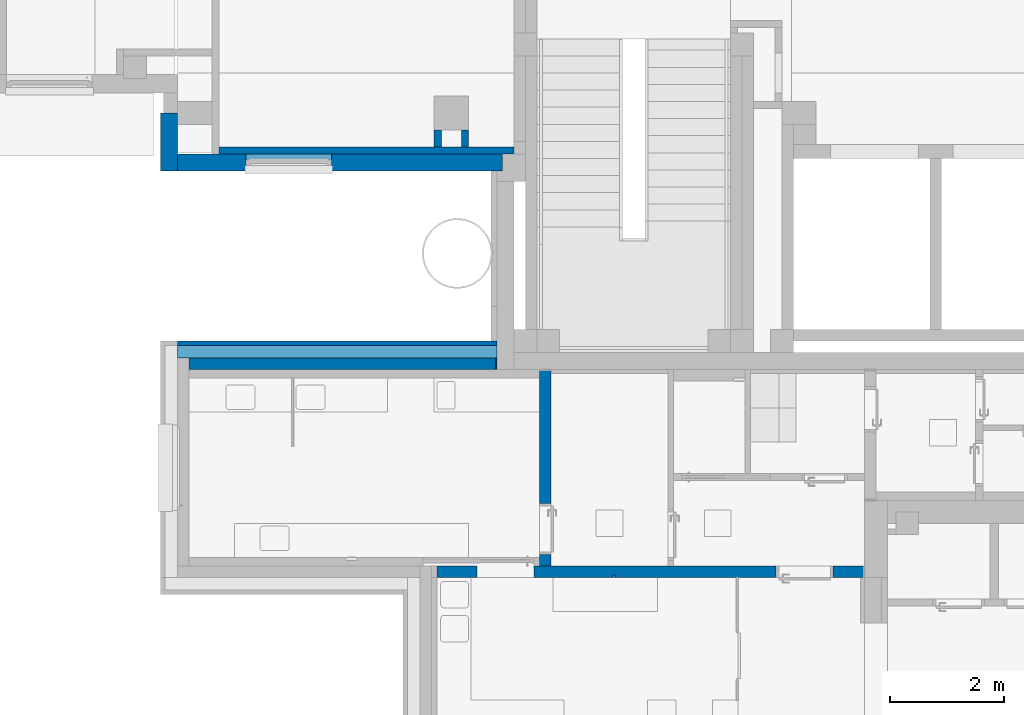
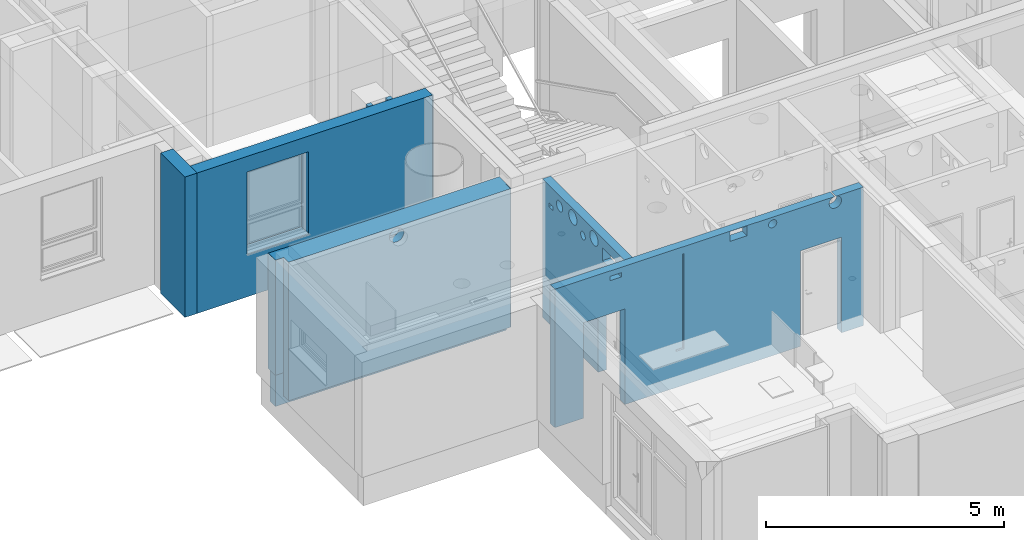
# One storey, part 27 of 140: 10 walls, 18 openings.
"""IFC4 building model written with IfcOpenShell, lengths in metres."""

import ifcopenshell
import ifcopenshell.guid

model = None  # the IFC model being written
_history = None  # IfcOwnerHistory: only IFC2X3 demands one
_inside = {}  # id of a spatial element -> (the spatial element, [elements in it])
_under = {}  # id of a project, library or spatial element -> (it, [spatial elements below it])
_declared = {}  # id of a project -> (the project, [libraries it declares])
_typed = {}  # id of a type object -> (the type object, [elements of that type])
_made_of = {}  # id of a material, layer set ... -> (it, [elements and type objects made of it])


def new_model(schema):
    """Start an empty IFC model of exactly this schema.

    Asked for "IFC4X3", IfcOpenShell would pick the latest addendum, in which some entities
    have other attributes; the version numbers below select the first issue.
    IFC2X3 requires an IfcOwnerHistory on every rooted entity: one is made here for all.
    """
    global model, _history
    if schema == "IFC4X3":
        model = ifcopenshell.file(schema_version=(4, 3, 0, 0))
    else:
        model = ifcopenshell.file(schema=schema)
    _inside.clear()
    _under.clear()
    _declared.clear()
    _typed.clear()
    _made_of.clear()
    _history = None
    if model.schema == "IFC2X3":
        org = make("IfcOrganization", Name="unknown")
        user = make(
            "IfcPersonAndOrganization",
            ThePerson=make("IfcPerson", FamilyName="unknown"),
            TheOrganization=org,
        )
        app = make(
            "IfcApplication",
            ApplicationDeveloper=org,
            Version="unknown",
            ApplicationFullName="unknown",
            ApplicationIdentifier="unknown",
        )
        _history = make(
            "IfcOwnerHistory",
            OwningUser=user,
            OwningApplication=app,
            ChangeAction="ADDED",
            CreationDate=0,
        )
    return model


def make(cls, **values):
    """One entity of the class cls with the attributes given. An attribute that is None is left unset."""
    return model.create_entity(
        cls, **{name: value for name, value in values.items() if value is not None}
    )


def entity(cls, *values):
    """Any entity or typed value of the class cls, its attributes in the order of the schema. None: left unset."""
    e = model.create_entity(cls)
    for i, value in enumerate(values):
        if value is not None:
            e[i] = value
    return e


def rooted(cls, **values):
    """An entity with a GlobalId (a new one), such as an element, a storey or a relation."""
    return make(cls, GlobalId=ifcopenshell.guid.new(), OwnerHistory=_history, **values)


def si_unit(unit_type, name, prefix=None):
    """IfcSIUnit, for example si_unit("LENGTHUNIT", "METRE", prefix="MILLI")."""
    return make("IfcSIUnit", UnitType=unit_type, Prefix=prefix, Name=name)


def converted_unit(unit_type, name, factor, base, dimensions=None, offset=None):
    """IfcConversionBasedUnit, such as the inch: factor (a typed value) times the base unit."""
    return make(
        "IfcConversionBasedUnit"
        if offset is None
        else "IfcConversionBasedUnitWithOffset",
        ConversionOffset=offset,
        Dimensions=None
        if dimensions is None
        else entity("IfcDimensionalExponents", *dimensions),
        UnitType=unit_type,
        Name=name,
        ConversionFactor=make(
            "IfcMeasureWithUnit", ValueComponent=factor, UnitComponent=base
        ),
    )


def derived_unit(unit_type, elements):
    """IfcDerivedUnit: a product of units, each with its exponent."""
    return make(
        "IfcDerivedUnit",
        Elements=[
            make("IfcDerivedUnitElement", Unit=unit, Exponent=power)
            for unit, power in elements
        ],
        UnitType=unit_type,
    )


def assignment(units):
    """IfcUnitAssignment: the units of a project."""
    return None if units is None else make("IfcUnitAssignment", Units=units)


def point(xyz):
    """IfcCartesianPoint."""
    return None if xyz is None else make("IfcCartesianPoint", Coordinates=xyz)


def direction(xyz):
    """IfcDirection."""
    return None if xyz is None else make("IfcDirection", DirectionRatios=xyz)


def frame(location, z_axis=None, x_axis=None):
    """IfcAxis2Placement3D, a coordinate frame: its origin and axes. An axis left out is left unset."""
    return make(
        "IfcAxis2Placement3D",
        Location=point(location),
        Axis=direction(z_axis),
        RefDirection=direction(x_axis),
    )


def frame_2d(location, x_axis=None):
    """IfcAxis2Placement2D, a coordinate frame in the plane: its origin and x axis."""
    return make(
        "IfcAxis2Placement2D", Location=point(location), RefDirection=direction(x_axis)
    )


def origin():
    """The frame at (0, 0, 0) with its axes left unset."""
    return frame((0.0, 0.0, 0.0))


def origin_with_axes():
    """The frame at (0, 0, 0) with the z axis (0, 0, 1) and the x axis (1, 0, 0) written out."""
    return frame((0.0, 0.0, 0.0), z_axis=(0.0, 0.0, 1.0), x_axis=(1.0, 0.0, 0.0))


def place(relative_to, where):
    """IfcLocalPlacement: puts the frame where relative to a parent placement (None: the world)."""
    return make(
        "IfcLocalPlacement", PlacementRelTo=relative_to, RelativePlacement=where
    )


def context(
    kind, dimensions, precision=None, world=None, true_north=None, identifier=None
):
    """IfcGeometricRepresentationContext, for example the 3D "Model" context."""
    return make(
        "IfcGeometricRepresentationContext",
        ContextIdentifier=identifier,
        ContextType=kind,
        CoordinateSpaceDimension=dimensions,
        Precision=precision,
        WorldCoordinateSystem=world,
        TrueNorth=true_north,
    )


def subcontext(parent, identifier, kind, view, scale=None):
    """IfcGeometricRepresentationSubContext, for example "Body" below "Model"."""
    return make(
        "IfcGeometricRepresentationSubContext",
        ContextIdentifier=identifier,
        ContextType=kind,
        ParentContext=parent,
        TargetScale=scale,
        TargetView=view,
    )


def project(units=None, contexts=None):
    """IfcProject with its units and contexts."""
    return rooted(
        "IfcProject",
        Name="project",
        RepresentationContexts=contexts,
        UnitsInContext=assignment(units),
    )


def spatial(cls, under=None, at=None, **own):
    """A site, building, storey or space (cls), placed at a placement, below another one or the project."""
    s = rooted(cls, ObjectPlacement=at, **own)
    if under is not None:
        _under.setdefault(under.id(), (under, []))[1].append(s)
    return s


def polyline(points):
    """IfcPolyline through the points."""
    return make("IfcPolyline", Points=[point(p) for p in points])


def profile(cls, at=None, kind="AREA", **sizes):
    """A parametric profile (cls). Its sizes go by their IFC names, for example OverallWidth=200.0."""
    return make(cls, ProfileType=kind, Position=at, **sizes)


def rectangle(**sizes):
    """IfcRectangleProfileDef."""
    return profile("IfcRectangleProfileDef", **sizes)


def outline(outer, holes=None, kind="AREA"):
    """IfcArbitraryClosedProfileDef: a profile drawn as a closed curve; with holes, ...WithVoids."""
    if holes is None:
        return make("IfcArbitraryClosedProfileDef", ProfileType=kind, OuterCurve=outer)
    return make(
        "IfcArbitraryProfileDefWithVoids",
        ProfileType=kind,
        OuterCurve=outer,
        InnerCurves=holes,
    )


def extrude(swept, where, along, depth):
    """IfcExtrudedAreaSolid: the profile swept, set in the frame where, extruded along a direction by depth."""
    return make(
        "IfcExtrudedAreaSolid",
        SweptArea=swept,
        Position=where,
        ExtrudedDirection=direction(along),
        Depth=depth,
    )


def clip(a, b, op="DIFFERENCE"):
    """IfcBooleanClippingResult: the solid a cut by the half space b."""
    return make(
        "IfcBooleanClippingResult", Operator=op, FirstOperand=a, SecondOperand=b
    )


def bounded_halfspace(plane, agree, where, boundary):
    """IfcPolygonalBoundedHalfSpace: a half space limited to a polygon's prism."""
    return make(
        "IfcPolygonalBoundedHalfSpace",
        BaseSurface=make("IfcPlane", Position=plane),
        AgreementFlag=agree,
        Position=where,
        PolygonalBoundary=boundary,
    )


def shape(context_of_items, identifier, shape_type, items):
    """IfcShapeRepresentation: the items that make up one representation, for example the "Body"."""
    return make(
        "IfcShapeRepresentation",
        ContextOfItems=context_of_items,
        RepresentationIdentifier=identifier,
        RepresentationType=shape_type,
        Items=items,
    )


def material(Name=None, Category=None):
    """IfcMaterial."""
    return make("IfcMaterial", Name=Name, Category=Category)


def layer(
    of_material, thickness, ventilated=None, Name=None, Category=None, Priority=None
):
    """IfcMaterialLayer: one layer of a wall or slab, of a material (None: an air gap)."""
    return make(
        "IfcMaterialLayer",
        Material=of_material,
        LayerThickness=thickness,
        IsVentilated=ventilated,
        Name=Name,
        Category=Category,
        Priority=Priority,
    )


def layer_set(layers, Name=None):
    """IfcMaterialLayerSet."""
    return make("IfcMaterialLayerSet", MaterialLayers=layers, LayerSetName=Name)


def layer_usage(for_layer_set, set_direction, sense, offset, extent=None):
    """IfcMaterialLayerSetUsage: how a layer set lies in its element."""
    return make(
        "IfcMaterialLayerSetUsage",
        ForLayerSet=for_layer_set,
        LayerSetDirection=set_direction,
        DirectionSense=sense,
        OffsetFromReferenceLine=offset,
        ReferenceExtent=extent,
    )


def made_of(thing, what):
    """Note that an element or type object is made of a material, layer set ...; save() writes the relation."""
    if what is not None:
        _made_of.setdefault(what.id(), (what, []))[1].append(thing)
    return thing


def element(
    cls,
    number,
    at=None,
    inside=None,
    cuts=None,
    type_object=None,
    material=None,
    context=None,
    identifier="Body",
    shape_type=None,
    held_by="IfcProductDefinitionShape",
    body=None,
    shapes=None,
    **own,
):
    """One element of the class cls, such as IfcWall. Its Tag is "e" and its number.

    at: its placement. inside: the storey or other place that contains it. cuts: it is an
    opening in that element (IfcRelVoidsElement). A single representation is given by context,
    identifier, shape_type and body (its items); several are given by shapes. held_by: the class
    of the entity that holds the representations. save() writes the other relations.
    """
    e = rooted(cls, Tag="e%d" % number, ObjectPlacement=at, **own)
    if body is not None:
        shapes = [shape(context, identifier, shape_type, body)]
    if shapes is not None:
        e.Representation = make(held_by, Representations=shapes)
    if inside is not None:
        _inside.setdefault(inside.id(), (inside, []))[1].append(e)
    if cuts is not None:
        rooted(
            "IfcRelVoidsElement", RelatingBuildingElement=cuts, RelatedOpeningElement=e
        )
    if type_object is not None:
        _typed.setdefault(type_object.id(), (type_object, []))[1].append(e)
    return made_of(e, material)


def aggregate(whole, parts):
    """IfcRelAggregates: a whole, such as a stair, and the parts it consists of."""
    return rooted("IfcRelAggregates", RelatingObject=whole, RelatedObjects=parts)


def save(model, path):
    """Write the relations noted so far, then the file.

    IfcRelAggregates (storeys below a building ...), IfcRelContainedInSpatialStructure (elements
    in a storey), IfcRelDefinesByType, IfcRelAssociatesMaterial and IfcRelDeclares: one each for
    every whole, place, type object, material and project.
    """
    for whole, parts in _under.values():
        aggregate(whole, parts)
    for where, things in _inside.values():
        rooted(
            "IfcRelContainedInSpatialStructure",
            RelatedElements=things,
            RelatingStructure=where,
        )
    for kind, things in _typed.values():
        rooted("IfcRelDefinesByType", RelatedObjects=things, RelatingType=kind)
    for what, things in _made_of.values():
        rooted("IfcRelAssociatesMaterial", RelatedObjects=things, RelatingMaterial=what)
    for by, libraries in _declared.values():
        rooted("IfcRelDeclares", RelatingContext=by, RelatedDefinitions=libraries)
    model.write(path)


model = new_model("IFC4")

# Units and contexts
model_context = context("Model", 3, precision=1e-05, world=origin())
body_context = subcontext(model_context, "Body", "Model", "MODEL_VIEW")
ifc_project = project(units=[si_unit("LENGTHUNIT", "METRE"), si_unit("AREAUNIT", "SQUARE_METRE"), si_unit("VOLUMEUNIT", "CUBIC_METRE"), si_unit("MASSUNIT", "GRAM", prefix="KILO"), converted_unit("PLANEANGLEUNIT", "DEGREE", entity("IfcPlaneAngleMeasure", 0.0174532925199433), si_unit("PLANEANGLEUNIT", "RADIAN"), dimensions=[0, 0, 0, 0, 0, 0, 0]), derived_unit("THERMALTRANSMITTANCEUNIT", [(si_unit("POWERUNIT", "WATT"), 1), (si_unit("THERMODYNAMICTEMPERATUREUNIT", "KELVIN"), -1), (si_unit("LENGTHUNIT", "METRE"), -2)]), derived_unit("VOLUMETRICFLOWRATEUNIT", [(si_unit("LENGTHUNIT", "METRE"), 3), (converted_unit("TIMEUNIT", "hour", entity("IfcTimeMeasure", 3600.0), si_unit("TIMEUNIT", "SECOND"), dimensions=[0, 0, 1, 0, 0, 0, 0]), -1), (si_unit("LENGTHUNIT", "METRE"), -1)])], contexts=[model_context])

# Site, building, storey
site_placement = place(None, origin())
site = spatial("IfcSite", under=ifc_project, at=site_placement, Name="3. ASŘ", CompositionType="ELEMENT")
building_placement = place(site_placement, origin())
building = spatial("IfcBuilding", under=site, at=building_placement, Name="Pavilon C", CompositionType="ELEMENT")
storey_placement = place(building_placement, origin())
storey = spatial("IfcBuildingStorey", under=building, at=storey_placement, Name="Půdorys 1.NP", CompositionType="ELEMENT", Elevation=0.0)

# Wall
ifc_material_1 = material(Name="ZELEZOBETONOVÁ KCE")
ifc_layer_1 = layer(ifc_material_1, 0.3)
ifc_layer_set_1 = layer_set([ifc_layer_1])
ifc_layer_usage_1 = layer_usage(ifc_layer_set_1, "AXIS2", "POSITIVE", 0.0)
wall_1_placement = place(storey_placement, frame((24.45, -2.82073740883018e-15, -0.1), z_axis=(0.0, 0.0, 1.0), x_axis=(0.0, -1.0, 0.0)))
element("IfcWall", 1, at=wall_1_placement, inside=storey, material=ifc_layer_usage_1, Name="ZELEZOBETONOVÁ KCE", context=body_context, shape_type="SweptSolid", body=[
    extrude(rectangle(XDim=1.02, YDim=0.3, at=frame_2d((0.51, 0.15), x_axis=(1.0, 0.0))), origin_with_axes(), (0.0, 0.0, 1.0), 3.6),
])

# Wall, opening
ifc_material_2 = material(Name="ZELEZOBETONOVÁ KCE")
ifc_layer_2 = layer(ifc_material_2, 0.3)
ifc_layer_set_2 = layer_set([ifc_layer_2])
ifc_layer_usage_2 = layer_usage(ifc_layer_set_2, "AXIS2", "POSITIVE", 0.0)
wall_2_placement = place(storey_placement, frame((24.75, -1.02, -0.1)))
wall_2 = element("IfcWall", 2, at=wall_2_placement, inside=storey, material=ifc_layer_usage_2, Name="ZELEZOBETONOVÁ KCE", context=body_context, shape_type="SweptSolid", body=[
    extrude(rectangle(XDim=5.7, YDim=0.3, at=frame_2d((2.85, 0.15), x_axis=(1.0, 0.0))), origin_with_axes(), (0.0, 0.0, 1.0), 3.6),
])
opening_1_placement = place(wall_2_placement, frame((1.2, 0.0, 1.1), z_axis=(0.0, 1.0, 0.0), x_axis=(0.0, 0.0, 1.0)))
element("IfcOpeningElement", 3, at=opening_1_placement, cuts=wall_2, Name="Okenní otvor", ObjectType="Opening", context=body_context, shape_type="SweptSolid", body=[
    extrude(outline(polyline([(0.0, 1.5), (2.1, 1.5), (2.1, 0.0), (0.0, 0.0), (0.0, 1.5)])), origin_with_axes(), (0.0, 0.0, 1.0), 0.3),
])

# Walls
ifc_material_3 = material(Name="ZDIVO Z CDm")
ifc_layer_3 = layer(ifc_material_3, 0.125)
ifc_layer_set_3 = layer_set([ifc_layer_3])
ifc_layer_usage_3 = layer_usage(ifc_layer_set_3, "AXIS2", "POSITIVE", 0.0)
wall_3_placement = place(storey_placement, frame((29.25, -0.300000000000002, -0.1), z_axis=(0.0, 0.0, 1.0), x_axis=(0.0, -1.0, 0.0)))
element("IfcWall", 4, at=wall_3_placement, inside=storey, material=ifc_layer_usage_3, Name="ZDIVO Z CDm", context=body_context, shape_type="SweptSolid", body=[
    extrude(rectangle(XDim=0.300000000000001, YDim=0.125, at=frame_2d((0.15, 0.0625), x_axis=(1.0, 0.0))), origin_with_axes(), (0.0, 0.0, 1.0), 3.35),
])
ifc_material_4 = material(Name="ZDIVO Z CDm")
ifc_layer_4 = layer(ifc_material_4, 0.125)
ifc_layer_set_4 = layer_set([ifc_layer_4])
ifc_layer_usage_4 = layer_usage(ifc_layer_set_4, "AXIS2", "POSITIVE", 0.0)
wall_4_placement = place(storey_placement, frame((29.85, -0.600000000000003, -0.1), z_axis=(0.0, 0.0, 1.0), x_axis=(0.0, 1.0, 0.0)))
element("IfcWall", 5, at=wall_4_placement, inside=storey, material=ifc_layer_usage_4, Name="ZDIVO Z CDm", context=body_context, shape_type="SweptSolid", body=[
    extrude(rectangle(XDim=0.300000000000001, YDim=0.125, at=frame_2d((0.15, 0.0625), x_axis=(1.0, 0.0))), origin_with_axes(), (0.0, 0.0, 1.0), 3.35),
])
ifc_material_5 = material(Name="PÓROBETONOVÉ ZDIVO")
ifc_layer_5 = layer(ifc_material_5, 0.12)
ifc_layer_set_5 = layer_set([ifc_layer_5])
ifc_layer_usage_5 = layer_usage(ifc_layer_set_5, "AXIS2", "POSITIVE", 0.0)
wall_5_placement = place(storey_placement, frame((25.475, -0.720000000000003, -0.1)))
element("IfcWall", 6, at=wall_5_placement, inside=storey, material=ifc_layer_usage_5, Name="PÓROBETONOVÉ ZDIVO", context=body_context, shape_type="SweptSolid", body=[
    extrude(rectangle(XDim=5.175, YDim=0.12, at=frame_2d((2.5875, 0.06), x_axis=(1.0, 0.0))), origin_with_axes(), (0.0, 0.0, 1.0), 3.35),
])

# Wall, openings
ifc_material_6 = material(Name="ZELEZOBETONOVÁ KCE")
ifc_layer_6 = layer(ifc_material_6, 0.2)
ifc_material_7 = material(Name="MINERÁLNÍ VATA")
ifc_layer_7 = layer(ifc_material_7, 0.3)
ifc_layer_set_6 = layer_set([ifc_layer_6, ifc_layer_7])
ifc_layer_usage_6 = layer_usage(ifc_layer_set_6, "AXIS2", "POSITIVE", 0.0)
wall_6_placement = place(storey_placement, frame((24.95, -4.5, -0.3)))
wall_6 = element("IfcWall", 7, at=wall_6_placement, inside=storey, material=ifc_layer_usage_6, Name="ZELEZOBETONOVÁ KCE", context=body_context, shape_type="Clipping", body=[
    clip(extrude(outline(polyline([(0.2, 0.0), (5.58, 0.0), (5.58, 0.2), (5.6, 0.2), (5.6, 0.5), (0.0, 0.5), (0.0, 0.2), (0.2, 0.2), (0.2, 0.0)])), frame((-0.2, 0.0, 0.0), z_axis=(0.0, 0.0, 1.0), x_axis=(1.0, 0.0, 0.0)), (0.0, 0.0, 1.0), 3.55), bounded_halfspace(frame((2.63, 0.3, 0.6), z_axis=(0.0, 0.0, 1.0), x_axis=(0.0, -1.0, 0.0)), True, origin_with_axes(), polyline([(-0.2, 0.5), (-0.2, 0.2), (0.0, 0.2), (5.38, 0.2), (5.4, 0.2), (5.4, 0.5), (-0.2, 0.5)]))),
])
opening_2_placement = place(wall_6_placement, frame((2.44882564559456, 0.0, 3.155), z_axis=(0.0, 1.0, 0.0), x_axis=(0.0, 0.0, 1.0)))
element("IfcOpeningElement", 8, at=opening_2_placement, cuts=wall_6, Name="Prostup stěnou", ObjectType="Opening", context=body_context, shape_type="SweptSolid", body=[
    extrude(outline(polyline([(0.175, 0.0), (0.15670751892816, 0.000958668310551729), (0.138615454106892, 0.00382416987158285), (0.120922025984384, 0.00856510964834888), (0.103821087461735, 0.0151295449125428), (0.0875, 0.0234455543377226), (0.0721375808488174, 0.0334220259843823), (0.0579021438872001, 0.0449496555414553), (0.0449496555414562, 0.0579021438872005), (0.0334220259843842, 0.0721375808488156), (0.0234455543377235, 0.0875), (0.015129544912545, 0.103821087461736), (0.00856510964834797, 0.120922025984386), (0.00382416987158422, 0.13861545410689), (0.000958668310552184, 0.15670751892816), (0.0, 0.175), (0.000958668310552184, 0.19329248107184), (0.00382416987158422, 0.21138454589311), (0.00856510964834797, 0.229077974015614), (0.015129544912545, 0.246178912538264), (0.023445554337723, 0.2625), (0.0334220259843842, 0.277862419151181), (0.0449496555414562, 0.292097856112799), (0.0579021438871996, 0.305050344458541), (0.0721375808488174, 0.316577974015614), (0.0875, 0.326554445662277), (0.103821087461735, 0.334870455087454), (0.120922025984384, 0.341434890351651), (0.138615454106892, 0.346175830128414), (0.15670751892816, 0.349041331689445), (0.175, 0.35), (0.19329248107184, 0.349041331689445), (0.211384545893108, 0.346175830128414), (0.229077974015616, 0.341434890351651), (0.246178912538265, 0.334870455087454), (0.2625, 0.326554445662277), (0.277862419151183, 0.316577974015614), (0.2920978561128, 0.305050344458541), (0.305050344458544, 0.292097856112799), (0.316577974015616, 0.277862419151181), (0.326554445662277, 0.2625), (0.334870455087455, 0.246178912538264), (0.341434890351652, 0.229077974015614), (0.346175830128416, 0.21138454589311), (0.349041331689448, 0.19329248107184), (0.35, 0.175), (0.349041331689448, 0.15670751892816), (0.346175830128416, 0.13861545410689), (0.341434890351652, 0.120922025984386), (0.334870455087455, 0.103821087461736), (0.326554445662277, 0.0875), (0.316577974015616, 0.0721375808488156), (0.305050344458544, 0.0579021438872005), (0.2920978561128, 0.0449496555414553), (0.277862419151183, 0.0334220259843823), (0.2625, 0.0234455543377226), (0.246178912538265, 0.0151295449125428), (0.229077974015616, 0.00856510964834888), (0.211384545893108, 0.00382416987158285), (0.19329248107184, 0.000958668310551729), (0.175, 0.0)])), origin_with_axes(), (0.0, 0.0, 1.0), 0.2),
])
opening_3_placement = place(wall_6_placement, frame((2.87382564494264, 0.5, 3.205), z_axis=(0.0, -1.0, 0.0), x_axis=(0.0, 0.0, 1.0)))
element("IfcOpeningElement", 9, at=opening_3_placement, cuts=wall_6, Name="Prostup stěnou", ObjectType="Opening", context=body_context, shape_type="SweptSolid", body=[
    extrude(outline(polyline([(0.0, 0.5), (0.25, 0.5), (0.25, 0.0), (0.0, 0.0), (0.0, 0.5)])), origin_with_axes(), (0.0, 0.0, 1.0), 0.3),
])

ifc_material_8 = material(Name="ZELEZOBETONOVÁ KCE")
ifc_layer_8 = layer(ifc_material_8, 0.2)
ifc_layer_set_7 = layer_set([ifc_layer_8])
ifc_layer_usage_7 = layer_usage(ifc_layer_set_7, "AXIS2", "POSITIVE", 0.0)
wall_7_placement = place(storey_placement, frame((31.3, -7.95000000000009, -0.3), z_axis=(0.0, 0.0, 1.0), x_axis=(-1.06063522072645e-15, 1.0, 0.0)))
wall_7 = element("IfcWall", 10, at=wall_7_placement, inside=storey, material=ifc_layer_usage_7, Name="ZELEZOBETONOVÁ KCE", context=body_context, shape_type="SweptSolid", body=[
    extrude(rectangle(XDim=3.43, YDim=0.2, at=frame_2d((1.715, 0.1), x_axis=(1.0, 0.0))), origin_with_axes(), (0.0, 0.0, 1.0), 3.55),
])
opening_4_placement = place(wall_7_placement, frame((0.199999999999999, -2.12127044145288e-16, 0.0), z_axis=(9.9475983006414e-16, 1.0, 0.0), x_axis=(0.0, 0.0, 1.0)))
element("IfcOpeningElement", 11, at=opening_4_placement, cuts=wall_7, Name="Dveřní otvor", ObjectType="Opening", context=body_context, shape_type="SweptSolid", body=[
    extrude(outline(polyline([(0.0, 0.9), (2.45, 0.9), (2.45, 0.0), (0.0, 0.0), (0.0, 0.9)])), origin_with_axes(), (0.0, 0.0, 1.0), 0.2),
])
opening_5_placement = place(wall_7_placement, frame((2.33500000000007, 0.200000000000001, 3.155), z_axis=(0.0, -1.0, 0.0), x_axis=(0.0, 0.0, 1.0)))
element("IfcOpeningElement", 12, at=opening_5_placement, cuts=wall_7, Name="VZT", ObjectType="Opening", context=body_context, shape_type="SweptSolid", body=[
    extrude(outline(polyline([(0.174999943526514, 0.0), (0.15670746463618, 0.000958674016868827), (0.138615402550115, 0.00382418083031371), (0.120921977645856, 0.00856512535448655), (0.103821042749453, 0.0151295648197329), (0.0874999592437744, 0.0234455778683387), (0.0721375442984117, 0.033422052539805), (0.0579021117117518, 0.0449496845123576), (0.0449496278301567, 0.0579021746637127), (0.0334220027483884, 0.0721376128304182), (0.02344553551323, 0.0875000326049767), (0.0151295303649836, 0.10382112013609), (0.00856509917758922, 0.120922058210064), (0.00382416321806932, 0.138615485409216), (0.000958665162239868, 0.156707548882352), (0.0, 0.175000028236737), (0.000958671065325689, 0.193292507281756), (0.00382417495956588, 0.211384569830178), (0.00856511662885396, 0.229077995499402), (0.0151295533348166, 0.246178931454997), (0.0234455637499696, 0.262500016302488), (0.0334220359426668, 0.277862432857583), (0.0449496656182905, 0.292097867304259), (0.0579021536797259, 0.305050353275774), (0.072137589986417, 0.316577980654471), (0.087500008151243, 0.3265544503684), (0.103821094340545, 0.334870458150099), (0.120922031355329, 0.341434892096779), (0.138615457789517, 0.346175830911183), (0.156707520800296, 0.349041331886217), (0.174999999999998, 0.35), (0.1932924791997, 0.349041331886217), (0.211384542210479, 0.346175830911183), (0.229077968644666, 0.341434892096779), (0.24617890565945, 0.334870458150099), (0.262499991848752, 0.3265544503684), (0.277862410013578, 0.316577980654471), (0.29209784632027, 0.305050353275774), (0.305050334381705, 0.292097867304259), (0.316577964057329, 0.277862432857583), (0.326554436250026, 0.262500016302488), (0.334870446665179, 0.246178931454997), (0.341434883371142, 0.229077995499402), (0.34617582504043, 0.211384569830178), (0.34904132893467, 0.193292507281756), (0.349999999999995, 0.175000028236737), (0.349041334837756, 0.156707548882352), (0.346175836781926, 0.138615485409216), (0.341434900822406, 0.120922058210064), (0.334870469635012, 0.10382112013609), (0.326554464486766, 0.0875000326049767), (0.316577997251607, 0.0721376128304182), (0.305050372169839, 0.0579021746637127), (0.292097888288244, 0.0449496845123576), (0.277862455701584, 0.033422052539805), (0.262500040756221, 0.0234455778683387), (0.246178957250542, 0.0151295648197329), (0.229078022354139, 0.00856512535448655), (0.21138459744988, 0.00382418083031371), (0.193292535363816, 0.000958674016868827), (0.174999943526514, 0.0)])), origin_with_axes(), (0.0, 0.0, 1.0), 0.2),
])
opening_6_placement = place(wall_7_placement, frame((1.45000000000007, 0.200000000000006, 3.155), z_axis=(-1.13686837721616e-15, -1.0, 0.0), x_axis=(0.0, 0.0, 1.0)))
element("IfcOpeningElement", 13, at=opening_6_placement, cuts=wall_7, Name="VZT", ObjectType="Opening", context=body_context, shape_type="SweptSolid", body=[
    extrude(outline(polyline([(0.174999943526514, 0.0), (0.15670746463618, 0.000958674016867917), (0.138615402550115, 0.00382418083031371), (0.120921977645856, 0.00856512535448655), (0.103821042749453, 0.0151295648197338), (0.0874999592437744, 0.0234455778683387), (0.0721375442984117, 0.033422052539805), (0.0579021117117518, 0.0449496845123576), (0.0449496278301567, 0.0579021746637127), (0.0334220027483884, 0.0721376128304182), (0.02344553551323, 0.0875000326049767), (0.0151295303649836, 0.10382112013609), (0.00856509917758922, 0.120922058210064), (0.00382416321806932, 0.138615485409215), (0.000958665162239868, 0.156707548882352), (0.0, 0.175000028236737), (0.000958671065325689, 0.193292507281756), (0.00382417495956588, 0.211384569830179), (0.00856511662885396, 0.229077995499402), (0.0151295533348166, 0.246178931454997), (0.0234455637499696, 0.262500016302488), (0.0334220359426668, 0.277862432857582), (0.0449496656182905, 0.292097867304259), (0.0579021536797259, 0.305050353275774), (0.072137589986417, 0.316577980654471), (0.087500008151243, 0.3265544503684), (0.103821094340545, 0.3348704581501), (0.120922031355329, 0.341434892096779), (0.138615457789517, 0.346175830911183), (0.156707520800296, 0.349041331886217), (0.174999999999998, 0.35), (0.1932924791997, 0.349041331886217), (0.211384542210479, 0.346175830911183), (0.229077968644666, 0.341434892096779), (0.24617890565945, 0.3348704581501), (0.262499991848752, 0.3265544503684), (0.277862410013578, 0.316577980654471), (0.29209784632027, 0.305050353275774), (0.305050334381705, 0.292097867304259), (0.316577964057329, 0.277862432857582), (0.326554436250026, 0.262500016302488), (0.334870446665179, 0.246178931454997), (0.341434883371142, 0.229077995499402), (0.34617582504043, 0.211384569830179), (0.34904132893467, 0.193292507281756), (0.349999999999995, 0.175000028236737), (0.349041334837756, 0.156707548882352), (0.346175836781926, 0.138615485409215), (0.341434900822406, 0.120922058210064), (0.334870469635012, 0.10382112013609), (0.326554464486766, 0.0875000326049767), (0.316577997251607, 0.0721376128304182), (0.305050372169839, 0.0579021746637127), (0.292097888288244, 0.0449496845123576), (0.277862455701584, 0.033422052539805), (0.262500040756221, 0.0234455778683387), (0.246178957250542, 0.0151295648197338), (0.229078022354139, 0.00856512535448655), (0.21138459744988, 0.00382418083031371), (0.193292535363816, 0.000958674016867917), (0.174999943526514, 0.0)])), origin_with_axes(), (0.0, 0.0, 1.0), 0.2),
])
opening_7_placement = place(wall_7_placement, frame((1.83551964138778, 0.199999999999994, 3.02), z_axis=(-1.13686837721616e-15, -1.0, 0.0), x_axis=(0.0, 0.0, 1.0)))
element("IfcOpeningElement", 14, at=opening_7_placement, cuts=wall_7, Name="ZTI", ObjectType="Opening", context=body_context, shape_type="SweptSolid", body=[
    extrude(outline(polyline([(0.0999999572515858, 0.0), (0.0895471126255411, 0.00054781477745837), (0.079208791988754, 0.00218524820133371), (0.0690982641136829, 0.00489436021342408), (0.059326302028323, 0.00864546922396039), (0.0499999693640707, 0.0133974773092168), (0.0412214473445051, 0.0190983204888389), (0.0330869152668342, 0.0256855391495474), (0.0256854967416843, 0.0330869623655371), (0.0190982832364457, 0.0412214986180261), (0.0133974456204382, 0.0500000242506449), (0.00864544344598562, 0.059326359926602), (0.00489434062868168, 0.0690983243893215), (0.00218523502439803, 0.0792088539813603), (0.000547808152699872, 0.0895471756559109), (0.0, 0.100000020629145), (0.000547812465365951, 0.110452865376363), (0.00218524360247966, 0.120791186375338), (0.00489435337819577, 0.130901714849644), (0.00864546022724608, 0.140673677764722), (0.0133974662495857, 0.150000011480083), (0.019098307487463, 0.158778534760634), (0.0256855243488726, 0.166913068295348), (0.0330869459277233, 0.174314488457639), (0.041221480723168, 0.180901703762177), (0.0500000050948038, 0.186602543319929), (0.0593263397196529, 0.191354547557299), (0.0690983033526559, 0.19510565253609), (0.0792088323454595, 0.197814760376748), (0.089547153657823, 0.199452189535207), (0.0999999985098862, 0.2), (0.110452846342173, 0.199452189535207), (0.120791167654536, 0.197814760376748), (0.13090169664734, 0.19510565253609), (0.140673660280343, 0.191354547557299), (0.149999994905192, 0.186602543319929), (0.158778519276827, 0.180901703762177), (0.166913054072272, 0.174314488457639), (0.174314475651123, 0.166913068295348), (0.180901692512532, 0.158778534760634), (0.18660253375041, 0.150000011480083), (0.191354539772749, 0.140673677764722), (0.1951056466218, 0.130901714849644), (0.197814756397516, 0.120791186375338), (0.19945218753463, 0.110452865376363), (0.199999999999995, 0.100000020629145), (0.199452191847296, 0.0895471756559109), (0.197814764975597, 0.0792088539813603), (0.195105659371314, 0.0690983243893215), (0.19135455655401, 0.059326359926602), (0.186602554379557, 0.0500000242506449), (0.18090171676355, 0.0412214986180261), (0.174314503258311, 0.0330869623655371), (0.166913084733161, 0.0256855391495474), (0.15877855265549, 0.0190983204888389), (0.150000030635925, 0.0133974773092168), (0.140673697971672, 0.00864546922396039), (0.130901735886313, 0.00489436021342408), (0.120791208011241, 0.00218524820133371), (0.110452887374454, 0.00054781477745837), (0.0999999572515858, 0.0)])), origin_with_axes(), (0.0, 0.0, 1.0), 0.2),
])
opening_8_placement = place(wall_7_placement, frame((2.84939145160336, 0.200000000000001, 3.15), z_axis=(0.0, -1.0, 0.0), x_axis=(0.0, 0.0, 1.0)))
element("IfcOpeningElement", 15, at=opening_8_placement, cuts=wall_7, Name="VZT", ObjectType="Opening", context=body_context, shape_type="SweptSolid", body=[
    extrude(outline(polyline([(0.129999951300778, 0.0), (0.116411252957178, 0.000712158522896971), (0.102971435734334, 0.00284082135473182), (0.0898277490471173, 0.00636266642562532), (0.0771241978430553, 0.0112391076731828), (0.0649999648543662, 0.0174167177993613), (0.0535878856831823, 0.024827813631), (0.0430129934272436, 0.0333911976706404), (0.0333911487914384, 0.043013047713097), (0.0248277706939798, 0.0535879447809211), (0.0174166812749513, 0.065000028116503), (0.0112390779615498, 0.0771242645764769), (0.00636264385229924, 0.0898278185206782), (0.0028408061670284, 0.102971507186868), (0.000712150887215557, 0.116411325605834), (0.0, 0.130000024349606), (0.000712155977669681, 0.143588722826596), (0.00284081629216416, 0.157028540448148), (0.0063626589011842, 0.170172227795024), (0.0112390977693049, 0.182875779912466), (0.0174167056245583, 0.195000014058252), (0.0248277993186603, 0.206412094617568), (0.0333911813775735, 0.216986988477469), (0.0430130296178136, 0.226608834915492), (0.0535879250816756, 0.235172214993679), (0.0650000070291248, 0.242583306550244), (0.0771242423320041, 0.248760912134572), (0.0898277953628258, 0.253637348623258), (0.102971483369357, 0.257159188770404), (0.116411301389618, 0.259287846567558), (0.129999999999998, 0.26), (0.143588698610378, 0.259287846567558), (0.157028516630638, 0.257159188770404), (0.17017220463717, 0.253637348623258), (0.182875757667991, 0.248760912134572), (0.194999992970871, 0.242583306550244), (0.20641207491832, 0.235172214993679), (0.216986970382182, 0.226608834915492), (0.226608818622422, 0.216986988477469), (0.235172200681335, 0.206412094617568), (0.242583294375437, 0.195000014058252), (0.248760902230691, 0.182875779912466), (0.253637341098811, 0.170172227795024), (0.257159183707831, 0.157028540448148), (0.259287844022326, 0.143588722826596), (0.259999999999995, 0.130000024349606), (0.25928784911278, 0.116411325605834), (0.257159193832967, 0.102971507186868), (0.253637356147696, 0.0898278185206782), (0.248760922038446, 0.0771242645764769), (0.242583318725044, 0.065000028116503), (0.235172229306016, 0.0535879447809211), (0.226608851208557, 0.043013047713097), (0.216987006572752, 0.0333911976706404), (0.206412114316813, 0.024827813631), (0.195000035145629, 0.0174167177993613), (0.18287580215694, 0.0112391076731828), (0.170172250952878, 0.00636266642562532), (0.157028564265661, 0.00284082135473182), (0.143588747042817, 0.000712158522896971), (0.129999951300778, 0.0)])), origin_with_axes(), (0.0, 0.0, 1.0), 0.2),
])
opening_9_placement = place(wall_7_placement, frame((2.9993914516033, -6.819239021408e-15, 3.0), z_axis=(0.0, 1.0, 0.0), x_axis=(0.0, 0.0, 1.0)))
element("IfcOpeningElement", 16, at=opening_9_placement, cuts=wall_7, Name="ZTI", ObjectType="Opening", context=body_context, shape_type="SweptSolid", body=[
    extrude(outline(polyline([(0.0, 0.17), (0.1, 0.17), (0.1, 0.0), (0.0, 0.0), (0.0, 0.17)])), origin_with_axes(), (0.0, 0.0, 1.0), 0.2),
])
opening_10_placement = place(wall_7_placement, frame((0.395000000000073, 3.95988159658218e-14, 2.97), z_axis=(1.13686837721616e-15, 1.0, 0.0), x_axis=(0.0, 0.0, 1.0)))
element("IfcOpeningElement", 17, at=opening_10_placement, cuts=wall_7, Name="VZT+ZTI", ObjectType="Opening", context=body_context, shape_type="SweptSolid", body=[
    extrude(outline(polyline([(0.0, 0.53), (0.34, 0.53), (0.34, 0.0), (0.0, 0.0), (0.0, 0.53)])), origin_with_axes(), (0.0, 0.0, 1.0), 0.2),
])

ifc_material_9 = material(Name="ZELEZOBETONOVÁ KCE")
ifc_layer_9 = layer(ifc_material_9, 0.2)
ifc_layer_set_8 = layer_set([ifc_layer_9])
ifc_layer_usage_8 = layer_usage(ifc_layer_set_8, "AXIS2", "POSITIVE", 0.0)
wall_8_placement = place(storey_placement, frame((29.3, -8.15, -0.3)))
wall_8 = element("IfcWall", 18, at=wall_8_placement, inside=storey, material=ifc_layer_usage_8, Name="ZELEZOBETONOVÁ KCE", context=body_context, shape_type="SweptSolid", body=[
    extrude(rectangle(XDim=7.48, YDim=0.2, at=frame_2d((3.74, 0.1), x_axis=(1.0, 0.0))), origin_with_axes(), (0.0, 0.0, 1.0), 3.55),
])
opening_11_placement = place(wall_8_placement, frame((6.95, 0.2, 0.0), z_axis=(0.0, -1.0, 0.0), x_axis=(0.0, 0.0, 1.0)))
element("IfcOpeningElement", 19, at=opening_11_placement, cuts=wall_8, Name="Dveřní otvor", ObjectType="Opening", context=body_context, shape_type="SweptSolid", body=[
    extrude(outline(polyline([(0.0, 1.0), (2.45, 1.0), (2.45, 0.0), (0.0, 0.0), (0.0, 1.0)])), origin_with_axes(), (0.0, 0.0, 1.0), 0.2),
])
opening_12_placement = place(wall_8_placement, frame((1.7, 0.2, 0.0), z_axis=(0.0, -1.0, 0.0), x_axis=(0.0, 0.0, 1.0)))
element("IfcOpeningElement", 20, at=opening_12_placement, cuts=wall_8, Name="Dveřní otvor", ObjectType="Opening", context=body_context, shape_type="SweptSolid", body=[
    extrude(outline(polyline([(0.0, 1.0), (2.45, 1.0), (2.45, 0.0), (0.0, 0.0), (0.0, 1.0)])), origin_with_axes(), (0.0, 0.0, 1.0), 0.2),
])
opening_13_placement = place(wall_8_placement, frame((1.33750000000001, 0.0, 3.3), z_axis=(0.0, 1.0, 0.0), x_axis=(0.0, 0.0, 1.0)))
element("IfcOpeningElement", 21, at=opening_13_placement, cuts=wall_8, Name="ZTI", ObjectType="Opening", context=body_context, shape_type="SweptSolid", body=[
    extrude(outline(polyline([(0.0, 0.275), (0.11, 0.275), (0.11, 0.0), (0.0, 0.0), (0.0, 0.275)])), origin_with_axes(), (0.0, 0.0, 1.0), 0.2),
])
opening_14_placement = place(wall_8_placement, frame((4.24097424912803, 0.0, 3.29), z_axis=(0.0, 1.0, 0.0), x_axis=(0.0, 0.0, 1.0)))
element("IfcOpeningElement", 22, at=opening_14_placement, cuts=wall_8, Name="VZT", ObjectType="Opening", context=body_context, shape_type="SweptSolid", body=[
    extrude(outline(polyline([(0.0, 0.42), (0.25, 0.42), (0.25, 0.0), (0.0, 0.0), (0.0, 0.42)])), origin_with_axes(), (0.0, 0.0, 1.0), 0.2),
])
opening_15_placement = place(wall_8_placement, frame((5.18002267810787, -1.30967237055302e-13, 3.28), z_axis=(0.0, 1.0, 0.0), x_axis=(0.0, 0.0, 1.0)))
element("IfcOpeningElement", 23, at=opening_15_placement, cuts=wall_8, Name="ZTI", ObjectType="Opening", context=body_context, shape_type="SweptSolid", body=[
    extrude(outline(polyline([(0.1, 0.0), (0.0895471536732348, 0.000547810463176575), (0.0792088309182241, 0.00218523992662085), (0.0690983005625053, 0.00489434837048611), (0.0593263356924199, 0.00864545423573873), (0.05, 0.0133974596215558), (0.0412214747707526, 0.0190983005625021), (0.0330869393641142, 0.025685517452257), (0.0256855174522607, 0.0330869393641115), (0.0190983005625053, 0.0412214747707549), (0.0133974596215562, 0.05), (0.00864545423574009, 0.0593263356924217), (0.00489434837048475, 0.0690983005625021), (0.00218523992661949, 0.0792088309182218), (0.000547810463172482, 0.0895471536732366), (0.0, 0.1), (0.000547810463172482, 0.110452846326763), (0.00218523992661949, 0.120791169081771), (0.00489434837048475, 0.130901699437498), (0.00864545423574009, 0.140673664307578), (0.0133974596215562, 0.15), (0.0190983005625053, 0.158778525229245), (0.0256855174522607, 0.166913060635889), (0.0330869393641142, 0.174314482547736), (0.0412214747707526, 0.180901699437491), (0.05, 0.186602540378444), (0.0593263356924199, 0.191354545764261), (0.0690983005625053, 0.195105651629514), (0.0792088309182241, 0.197814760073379), (0.0895471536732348, 0.199452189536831), (0.1, 0.2), (0.110452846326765, 0.199452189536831), (0.120791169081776, 0.197814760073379), (0.130901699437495, 0.195105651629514), (0.14067366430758, 0.191354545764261), (0.15, 0.186602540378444), (0.158778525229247, 0.180901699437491), (0.166913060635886, 0.174314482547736), (0.174314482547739, 0.166913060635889), (0.180901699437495, 0.158778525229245), (0.186602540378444, 0.15), (0.19135454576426, 0.140673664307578), (0.195105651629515, 0.130901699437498), (0.197814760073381, 0.120791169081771), (0.199452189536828, 0.110452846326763), (0.2, 0.1), (0.199452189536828, 0.0895471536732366), (0.197814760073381, 0.0792088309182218), (0.195105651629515, 0.0690983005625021), (0.19135454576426, 0.0593263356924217), (0.186602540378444, 0.05), (0.180901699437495, 0.0412214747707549), (0.174314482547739, 0.0330869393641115), (0.166913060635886, 0.025685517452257), (0.158778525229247, 0.0190983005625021), (0.15, 0.0133974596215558), (0.14067366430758, 0.00864545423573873), (0.130901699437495, 0.00489434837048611), (0.120791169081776, 0.00218523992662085), (0.110452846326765, 0.000547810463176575), (0.1, 0.0)])), origin_with_axes(), (0.0, 0.0, 1.0), 0.2),
])
opening_16_placement = place(wall_8_placement, frame((6.94978834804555, 0.200000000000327, 3.25), z_axis=(0.0, -1.0, 0.0), x_axis=(0.0, 0.0, 1.0)))
element("IfcOpeningElement", 24, at=opening_16_placement, cuts=wall_8, Name="VZT", ObjectType="Opening", context=body_context, shape_type="SweptSolid", body=[
    extrude(outline(polyline([(0.15, 0.3), (0.165679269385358, 0.299178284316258), (0.181186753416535, 0.296722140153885), (0.196352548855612, 0.292658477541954), (0.211010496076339, 0.287031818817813), (0.224999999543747, 0.279903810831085), (0.238167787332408, 0.271352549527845), (0.250369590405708, 0.261471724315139), (0.261471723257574, 0.250369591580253), (0.271352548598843, 0.23816778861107), (0.27990381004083, 0.225000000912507), (0.287031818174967, 0.211010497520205), (0.29265847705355, 0.196352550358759), (0.296722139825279, 0.181186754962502), (0.299178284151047, 0.165679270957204), (0.3, 0.150000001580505), (0.299178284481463, 0.13432073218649), (0.296722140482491, 0.118813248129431), (0.292658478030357, 0.103647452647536), (0.287031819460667, 0.0889895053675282), (0.279903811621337, 0.0750000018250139), (0.27135255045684, 0.0618322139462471), (0.261471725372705, 0.0496304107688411), (0.250369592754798, 0.0385282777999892), (0.238167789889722, 0.0286474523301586), (0.225000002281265, 0.0200961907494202), (0.211010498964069, 0.0129681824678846), (0.196352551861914, 0.00734152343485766), (0.181186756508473, 0.00327786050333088), (0.165679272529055, 0.000821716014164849), (0.149999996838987, 0.0), (0.134320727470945, 0.000821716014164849), (0.118813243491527, 0.00327786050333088), (0.103647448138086, 0.00734152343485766), (0.088989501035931, 0.0129681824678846), (0.0749999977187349, 0.0200961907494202), (0.0618322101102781, 0.0286474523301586), (0.0496304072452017, 0.0385282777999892), (0.0385282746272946, 0.0496304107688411), (0.0286474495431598, 0.0618322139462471), (0.0200961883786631, 0.0750000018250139), (0.0129681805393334, 0.0889895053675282), (0.0073415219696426, 0.103647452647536), (0.00327785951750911, 0.118813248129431), (0.000821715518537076, 0.13432073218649), (0.0, 0.150000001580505), (0.000821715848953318, 0.165679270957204), (0.0032778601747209, 0.181186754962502), (0.00734152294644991, 0.196352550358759), (0.0129681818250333, 0.211010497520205), (0.0200961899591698, 0.225000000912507), (0.028647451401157, 0.23816778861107), (0.038528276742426, 0.250369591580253), (0.0496304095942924, 0.261471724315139), (0.0618322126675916, 0.271352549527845), (0.075000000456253, 0.279903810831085), (0.0889895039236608, 0.287031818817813), (0.103647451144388, 0.292658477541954), (0.118813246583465, 0.296722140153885), (0.134320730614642, 0.299178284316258), (0.15, 0.3)])), origin_with_axes(), (0.0, 0.0, 1.0), 0.2),
])
opening_17_placement = place(wall_8_placement, frame((2.94030992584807, 8.59998767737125e-07, 0.93), z_axis=(0.0, 1.0, 0.0), x_axis=(0.0, 0.0, 1.0)))
element("IfcOpeningElement", 25, at=opening_17_placement, cuts=wall_8, Name="Prostup stěnou", ObjectType="Opening", context=body_context, shape_type="SweptSolid", body=[
    extrude(outline(polyline([(0.0, 0.19), (0.04, 0.19), (0.04, 0.0), (0.0, 0.0), (0.0, 0.19)])), origin_with_axes(), (0.0, 0.0, 1.0), 0.04),
])
opening_18_placement = place(wall_8_placement, frame((3.09030992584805, 8.59998744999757e-07, 0.93), z_axis=(0.0, 1.0, 0.0), x_axis=(0.0, 0.0, 1.0)))
element("IfcOpeningElement", 26, at=opening_18_placement, cuts=wall_8, Name="Prostup stěnou", ObjectType="Opening", context=body_context, shape_type="SweptSolid", body=[
    extrude(outline(polyline([(0.0, 0.04), (2.44, 0.04), (2.44, 0.0), (0.0, 0.0), (0.0, 0.04)])), origin_with_axes(), (0.0, 0.0, 1.0), 0.04),
])

# Walls
ifc_material_10 = material(Name="PERIMETR")
ifc_layer_10 = layer(ifc_material_10, 0.22)
ifc_layer_set_9 = layer_set([ifc_layer_10])
ifc_layer_usage_9 = layer_usage(ifc_layer_set_9, "AXIS2", "POSITIVE", 0.0)
wall_9_placement = place(storey_placement, frame((24.75, -4.3, -0.5)))
element("IfcWall", 27, at=wall_9_placement, inside=storey, material=ifc_layer_usage_9, Name="PERIMETR", context=body_context, shape_type="SweptSolid", body=[
    extrude(rectangle(XDim=5.6, YDim=0.22, at=frame_2d((2.8, 0.11), x_axis=(1.0, 0.0))), origin_with_axes(), (0.0, 0.0, 1.0), 0.8),
])
ifc_material_11 = material(Name="EPS")
ifc_layer_11 = layer(ifc_material_11, 0.02)
ifc_layer_set_10 = layer_set([ifc_layer_11])
ifc_layer_usage_10 = layer_usage(ifc_layer_set_10, "AXIS2", "POSITIVE", 0.0)
wall_10_placement = place(storey_placement, frame((30.35, -4.50000000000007, -0.3), z_axis=(0.0, 0.0, 1.0), x_axis=(0.0, 1.0, 0.0)))
element("IfcWall", 28, at=wall_10_placement, inside=storey, material=ifc_layer_usage_10, Name="EPS", context=body_context, shape_type="SweptSolid", body=[
    extrude(rectangle(XDim=0.200000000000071, YDim=0.02, at=frame_2d((0.100000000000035, 0.01), x_axis=(1.0, 0.0))), origin_with_axes(), (0.0, 0.0, 1.0), 3.55),
])

save(model, "model.ifc")
